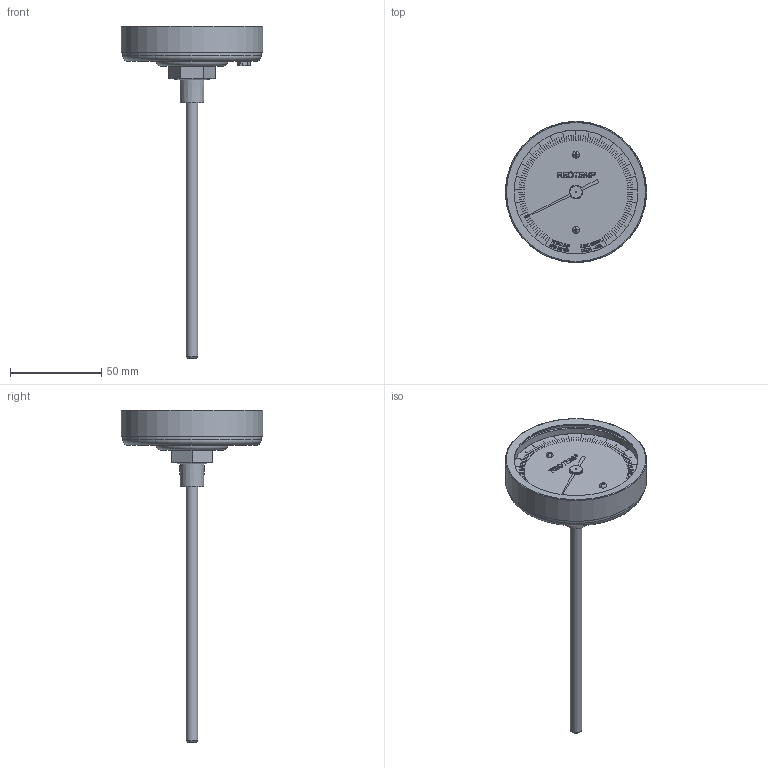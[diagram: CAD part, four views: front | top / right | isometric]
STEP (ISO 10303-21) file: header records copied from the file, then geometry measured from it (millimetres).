
FILE_DESCRIPTION(/* description */ (''),/* implementation_level */ '2;1');
FILE_NAME(/* name */ 'P:\3D Drawings\AA\AA-quarter-NPT\AA-quarter-NPT-STP\AA-quarter-NPT-STP.stp',/* time_stamp */ '2015-11-09T10:21:32-08:00',/* author */ ('charles'),/* organization */ (''),/* preprocessor_version */ 'ST-DEVELOPER v15.2',/* originating_system */ 'Autodesk Inventor 2014',/* authorisation */ '');
FILE_SCHEMA (('AUTOMOTIVE_DESIGN { 1 0 10303 214 3 1 1 }'));
Length unit declared in the file: inch
Products named in the file (1): AA-quarter-NPT
Bounding box: 77.47 x 77.47 x 182 mm (x, y, z)
Volume: 41357.2 mm3; surface area: 43629 mm2
Topology: 33 solids, 33 shells, 1654 faces, 4721 edges, 3146 vertices
Faces by surface type: plane 1240, bspline 383, cylinder 19, torus 8, cone 4
Full cylindrical faces by diameter (mm): 0.311 x1, 0.778 x1, 2.286 x4, 6.35 x1, 6.714 x1, 6.934 x2, 67.855 x1, 70.612 x2, 73.406 x1, 75.946 x1, 76.2 x1, 77.47 x1
Entity records: 59391 total; most frequent: CARTESIAN_POINT 16607, ORIENTED_EDGE 9374, DIRECTION 6493, EDGE_CURVE 4687, LINE 3835, VECTOR 3835, VERTEX_POINT 3141, EDGE_LOOP 2114
